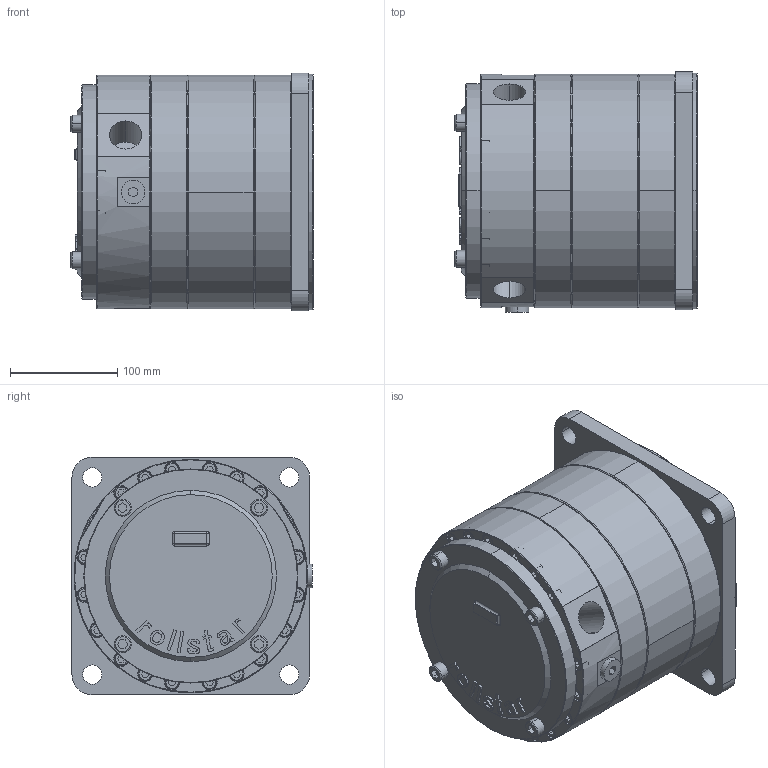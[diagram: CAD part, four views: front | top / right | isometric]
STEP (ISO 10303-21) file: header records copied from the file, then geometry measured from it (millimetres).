
FILE_DESCRIPTION(('Creo Elements/Direct Modeling STEP Export'),'2;1');
FILE_NAME('M50 radial.stp','2017-07-10T14:49:38',(''),(''),'PTC Creo Elements/Direct Modeling STEP processor for AP214 (Solid Model)','PTC Creo Elements/Direct Modeling 19.0C 15-Aug-2015 (C) Parametric Technology GmbH','');
FILE_SCHEMA(('AUTOMOTIVE_DESIGN { 1 0 10303 214 1 1 1 1 }'));
Length unit declared in the file: millimetre
Products named in the file (1): M50_radial
Bounding box: 226 x 224.16 x 222 mm (x, y, z)
Volume: 8015756.5 mm3; surface area: 326666 mm2
Topology: 1 solids, 9 shells, 1026 faces, 2440 edges, 1556 vertices
Faces by surface type: plane 505, cylinder 329, cone 100, extrusion 53, torus 29, sphere 10
Entity records: 38554 total; most frequent: CARTESIAN_POINT 7605, ORIENTED_EDGE 4856, DIRECTION 4447, EDGE_CURVE 2428, VERTEX_POINT 1556, AXIS2_PLACEMENT_3D 1494, VECTOR 1459, LINE 1406
